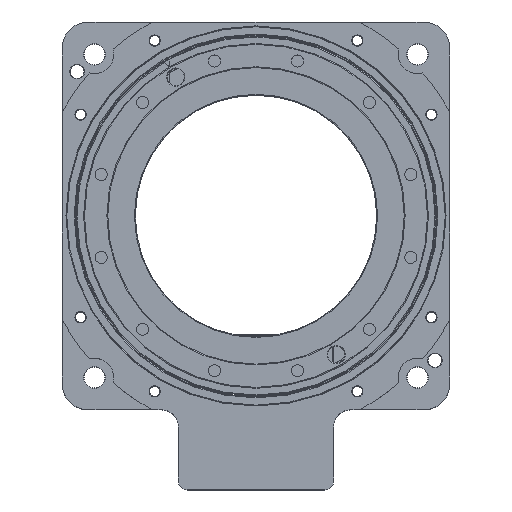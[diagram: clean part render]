
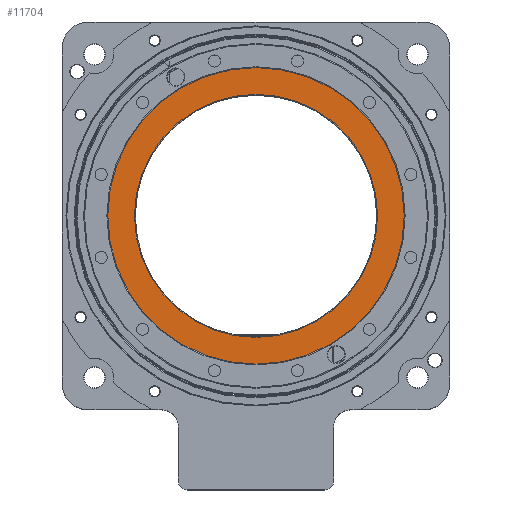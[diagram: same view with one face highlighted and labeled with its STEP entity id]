
A CAD part, top view. The second image highlights one B-rep face of the part: STEP entity #11704.
In plain terms, the highlighted planar face has unit normal (0, 0, 1).
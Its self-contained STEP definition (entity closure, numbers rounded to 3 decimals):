
#677 = VERTEX_POINT ( 'NONE', #17149 ) ;
#797 = DIRECTION ( 'NONE',  ( 0., 0., -1. ) ) ;
#1081 = DIRECTION ( 'NONE',  ( 0., 0., -1. ) ) ;
#1955 = CIRCLE ( 'NONE', #7035, 172. ) ;
#2319 = PLANE ( 'NONE',  #11127 ) ;
#3192 = CARTESIAN_POINT ( 'NONE',  ( -33.347, -72.874, 121.5 ) ) ;
#3718 = DIRECTION ( 'NONE',  ( 0.5, -0.866, 0. ) ) ;
#4425 = AXIS2_PLACEMENT_3D ( 'NONE', #7444, #7386, #8752 ) ;
#4890 = VERTEX_POINT ( 'NONE', #5965 ) ;
#4984 = DIRECTION ( 'NONE',  ( 0.5, -0.866, 0. ) ) ;
#5130 = DIRECTION ( 'NONE',  ( 0., 0., -1. ) ) ;
#5897 = CIRCLE ( 'NONE', #4425, 172. ) ;
#5965 = CARTESIAN_POINT ( 'NONE',  ( -17.847, -99.721, 121.5 ) ) ;
#6299 = ORIENTED_EDGE ( 'NONE', *, *, #17028, .F. ) ;
#6679 = FACE_BOUND ( 'NONE', #17112, .T. ) ;
#7035 = AXIS2_PLACEMENT_3D ( 'NONE', #13237, #5130, #3718 ) ;
#7386 = DIRECTION ( 'NONE',  ( 0., 0., -1. ) ) ;
#7444 = CARTESIAN_POINT ( 'NONE',  ( -103.847, 49.235, 121.5 ) ) ;
#7832 = ORIENTED_EDGE ( 'NONE', *, *, #8653, .F. ) ;
#8517 = ORIENTED_EDGE ( 'NONE', *, *, #8763, .T. ) ;
#8653 = EDGE_CURVE ( 'NONE', #677, #4890, #1955, .T. ) ;
#8752 = DIRECTION ( 'NONE',  ( 0.5, -0.866, 0. ) ) ;
#8763 = EDGE_CURVE ( 'NONE', #12113, #14077, #12033, .T. ) ;
#9031 = DIRECTION ( 'NONE',  ( 0.5, -0.866, 0. ) ) ;
#9085 = CARTESIAN_POINT ( 'NONE',  ( -103.847, 49.235, 121.5 ) ) ;
#9144 = EDGE_LOOP ( 'NONE', ( #6299, #7832 ) ) ;
#9259 = AXIS2_PLACEMENT_3D ( 'NONE', #9085, #1081, #4984 ) ;
#9401 = FACE_OUTER_BOUND ( 'NONE', #9144, .T. ) ;
#10097 = CIRCLE ( 'NONE', #9259, 141. ) ;
#10368 = CARTESIAN_POINT ( 'NONE',  ( 45.109, 135.235, 121.5 ) ) ;
#11127 = AXIS2_PLACEMENT_3D ( 'NONE', #10368, #797, #9031 ) ;
#11704 = ADVANCED_FACE ( 'NONE', ( #9401, #6679 ), #2319, .F. ) ;
#12033 = CIRCLE ( 'NONE', #16951, 141. ) ;
#12113 = VERTEX_POINT ( 'NONE', #3192 ) ;
#13237 = CARTESIAN_POINT ( 'NONE',  ( -103.847, 49.235, 121.5 ) ) ;
#13529 = DIRECTION ( 'NONE',  ( 0., 0., -1. ) ) ;
#14077 = VERTEX_POINT ( 'NONE', #16842 ) ;
#14754 = DIRECTION ( 'NONE',  ( 0.5, -0.866, 0. ) ) ;
#16842 = CARTESIAN_POINT ( 'NONE',  ( -174.347, 171.345, 121.5 ) ) ;
#16951 = AXIS2_PLACEMENT_3D ( 'NONE', #17409, #13529, #14754 ) ;
#17028 = EDGE_CURVE ( 'NONE', #4890, #677, #5897, .T. ) ;
#17112 = EDGE_LOOP ( 'NONE', ( #8517, #17325 ) ) ;
#17135 = EDGE_CURVE ( 'NONE', #14077, #12113, #10097, .T. ) ;
#17149 = CARTESIAN_POINT ( 'NONE',  ( -189.847, 198.192, 121.5 ) ) ;
#17325 = ORIENTED_EDGE ( 'NONE', *, *, #17135, .T. ) ;
#17409 = CARTESIAN_POINT ( 'NONE',  ( -103.847, 49.235, 121.5 ) ) ;
